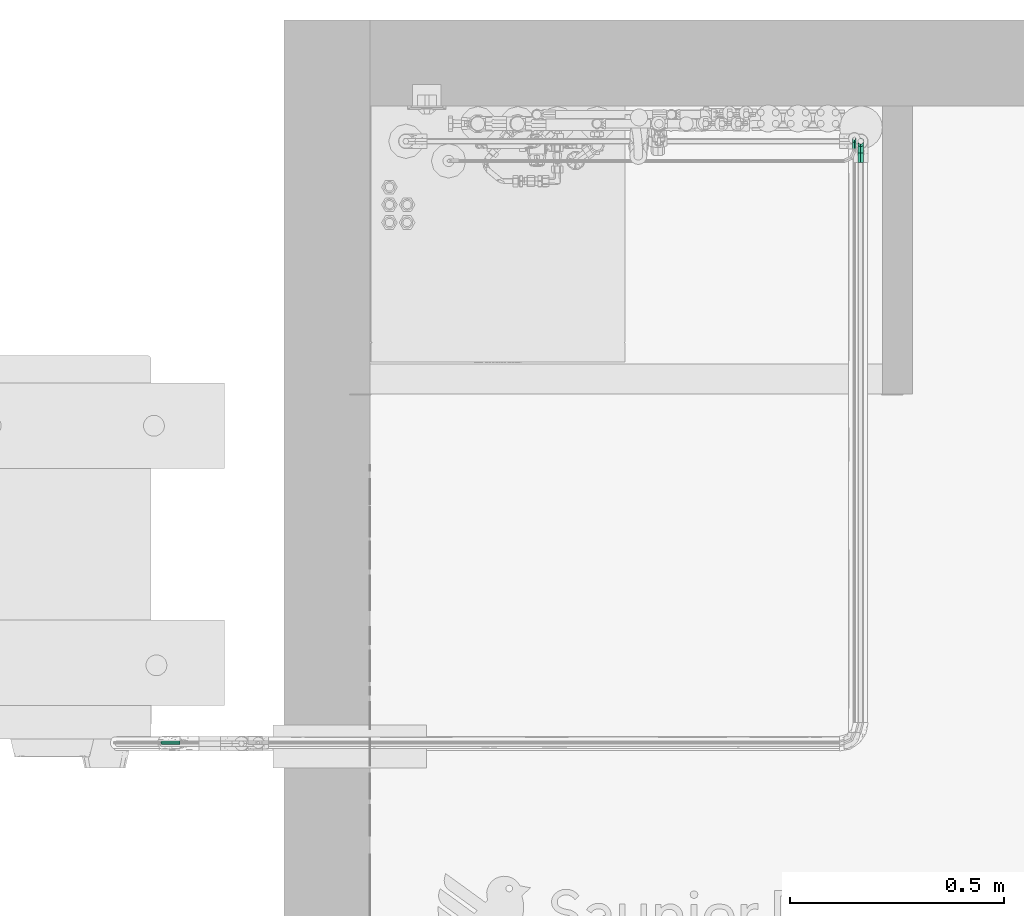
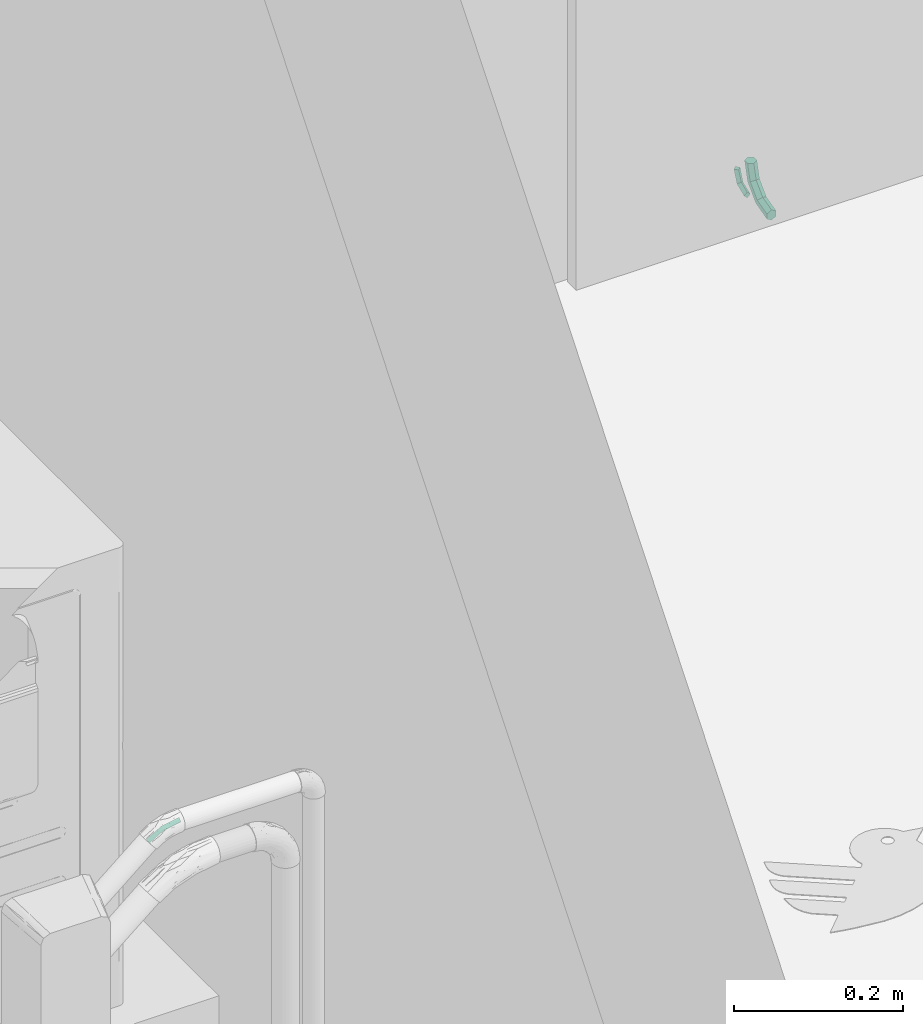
# One storey, part 26 of 32: 3 flow fittings.
"""IFC2X3 building model written with IfcOpenShell, lengths in metres."""

import ifcopenshell
import ifcopenshell.guid

model = None  # the IFC model being written
_history = None  # IfcOwnerHistory: only IFC2X3 demands one
_inside = {}  # id of a spatial element -> (the spatial element, [elements in it])
_under = {}  # id of a project, library or spatial element -> (it, [spatial elements below it])
_declared = {}  # id of a project -> (the project, [libraries it declares])
_typed = {}  # id of a type object -> (the type object, [elements of that type])
_made_of = {}  # id of a material, layer set ... -> (it, [elements and type objects made of it])


def new_model(schema):
    """Start an empty IFC model of exactly this schema.

    Asked for "IFC4X3", IfcOpenShell would pick the latest addendum, in which some entities
    have other attributes; the version numbers below select the first issue.
    IFC2X3 requires an IfcOwnerHistory on every rooted entity: one is made here for all.
    """
    global model, _history
    if schema == "IFC4X3":
        model = ifcopenshell.file(schema_version=(4, 3, 0, 0))
    else:
        model = ifcopenshell.file(schema=schema)
    _inside.clear()
    _under.clear()
    _declared.clear()
    _typed.clear()
    _made_of.clear()
    _history = None
    if model.schema == "IFC2X3":
        org = make("IfcOrganization", Name="unknown")
        user = make(
            "IfcPersonAndOrganization",
            ThePerson=make("IfcPerson", FamilyName="unknown"),
            TheOrganization=org,
        )
        app = make(
            "IfcApplication",
            ApplicationDeveloper=org,
            Version="unknown",
            ApplicationFullName="unknown",
            ApplicationIdentifier="unknown",
        )
        _history = make(
            "IfcOwnerHistory",
            OwningUser=user,
            OwningApplication=app,
            ChangeAction="ADDED",
            CreationDate=0,
        )
    return model


def make(cls, **values):
    """One entity of the class cls with the attributes given. An attribute that is None is left unset."""
    return model.create_entity(
        cls, **{name: value for name, value in values.items() if value is not None}
    )


def entity(cls, *values):
    """Any entity or typed value of the class cls, its attributes in the order of the schema. None: left unset."""
    e = model.create_entity(cls)
    for i, value in enumerate(values):
        if value is not None:
            e[i] = value
    return e


def rooted(cls, **values):
    """An entity with a GlobalId (a new one), such as an element, a storey or a relation."""
    return make(cls, GlobalId=ifcopenshell.guid.new(), OwnerHistory=_history, **values)


def si_unit(unit_type, name, prefix=None):
    """IfcSIUnit, for example si_unit("LENGTHUNIT", "METRE", prefix="MILLI")."""
    return make("IfcSIUnit", UnitType=unit_type, Prefix=prefix, Name=name)


def converted_unit(unit_type, name, factor, base, dimensions=None, offset=None):
    """IfcConversionBasedUnit, such as the inch: factor (a typed value) times the base unit."""
    return make(
        "IfcConversionBasedUnit"
        if offset is None
        else "IfcConversionBasedUnitWithOffset",
        ConversionOffset=offset,
        Dimensions=None
        if dimensions is None
        else entity("IfcDimensionalExponents", *dimensions),
        UnitType=unit_type,
        Name=name,
        ConversionFactor=make(
            "IfcMeasureWithUnit", ValueComponent=factor, UnitComponent=base
        ),
    )


def derived_unit(unit_type, elements):
    """IfcDerivedUnit: a product of units, each with its exponent."""
    return make(
        "IfcDerivedUnit",
        Elements=[
            make("IfcDerivedUnitElement", Unit=unit, Exponent=power)
            for unit, power in elements
        ],
        UnitType=unit_type,
    )


def assignment(units):
    """IfcUnitAssignment: the units of a project."""
    return None if units is None else make("IfcUnitAssignment", Units=units)


def point(xyz):
    """IfcCartesianPoint."""
    return None if xyz is None else make("IfcCartesianPoint", Coordinates=xyz)


def direction(xyz):
    """IfcDirection."""
    return None if xyz is None else make("IfcDirection", DirectionRatios=xyz)


def frame(location, z_axis=None, x_axis=None):
    """IfcAxis2Placement3D, a coordinate frame: its origin and axes. An axis left out is left unset."""
    return make(
        "IfcAxis2Placement3D",
        Location=point(location),
        Axis=direction(z_axis),
        RefDirection=direction(x_axis),
    )


def origin():
    """The frame at (0, 0, 0) with its axes left unset."""
    return frame((0.0, 0.0, 0.0))


def place(relative_to, where):
    """IfcLocalPlacement: puts the frame where relative to a parent placement (None: the world)."""
    return make(
        "IfcLocalPlacement", PlacementRelTo=relative_to, RelativePlacement=where
    )


def context(
    kind, dimensions, precision=None, world=None, true_north=None, identifier=None
):
    """IfcGeometricRepresentationContext, for example the 3D "Model" context."""
    return make(
        "IfcGeometricRepresentationContext",
        ContextIdentifier=identifier,
        ContextType=kind,
        CoordinateSpaceDimension=dimensions,
        Precision=precision,
        WorldCoordinateSystem=world,
        TrueNorth=true_north,
    )


def subcontext(parent, identifier, kind, view, scale=None):
    """IfcGeometricRepresentationSubContext, for example "Body" below "Model"."""
    return make(
        "IfcGeometricRepresentationSubContext",
        ContextIdentifier=identifier,
        ContextType=kind,
        ParentContext=parent,
        TargetScale=scale,
        TargetView=view,
    )


def project(units=None, contexts=None):
    """IfcProject with its units and contexts."""
    return rooted(
        "IfcProject",
        Name="project",
        RepresentationContexts=contexts,
        UnitsInContext=assignment(units),
    )


def spatial(cls, under=None, at=None, **own):
    """A site, building, storey or space (cls), placed at a placement, below another one or the project."""
    s = rooted(cls, ObjectPlacement=at, **own)
    if under is not None:
        _under.setdefault(under.id(), (under, []))[1].append(s)
    return s


def faces_of(points, faces, orient=None, outer=None):
    """IfcFace entities. A face is a list of loops; a loop is a list of indices into points, from 0.

    orient and outer hold one flag for each loop. By default every Orientation is true, the
    first loop of a face is its IfcFaceOuterBound and the others are IfcFaceBound.
    """
    made = []
    for i, loops in enumerate(faces):
        bounds = []
        for j, loop in enumerate(loops):
            is_outer = j == 0 if outer is None else outer[i][j]
            bounds.append(
                make(
                    "IfcFaceOuterBound" if is_outer else "IfcFaceBound",
                    Bound=make("IfcPolyLoop", Polygon=[points[k] for k in loop]),
                    Orientation=True if orient is None else orient[i][j],
                )
            )
        made.append(make("IfcFace", Bounds=bounds))
    return made


def faceted_brep(points, faces, orient=None, outer=None, voids=None):
    """IfcFacetedBrep: a solid bounded by flat faces; with voids (closed shells), ...WithVoids."""
    shared = [point(p) for p in points]
    hull = make("IfcClosedShell", CfsFaces=faces_of(shared, faces, orient, outer))
    if voids is None:
        return make("IfcFacetedBrep", Outer=hull)
    return make(
        "IfcFacetedBrepWithVoids",
        Outer=hull,
        Voids=[
            make(cls, CfsFaces=faces_of(shared, fs, o, b)) for cls, fs, o, b in voids
        ],
    )


def shape(context_of_items, identifier, shape_type, items):
    """IfcShapeRepresentation: the items that make up one representation, for example the "Body"."""
    return make(
        "IfcShapeRepresentation",
        ContextOfItems=context_of_items,
        RepresentationIdentifier=identifier,
        RepresentationType=shape_type,
        Items=items,
    )


def source(mapping_origin, context_of_items, identifier, shape_type, items):
    """IfcRepresentationMap: a shape defined once, which mapped items show again and again."""
    return make(
        "IfcRepresentationMap",
        MappingOrigin=mapping_origin,
        MappedRepresentation=shape(context_of_items, identifier, shape_type, items),
    )


def transform(
    local_origin,
    x_axis=None,
    y_axis=None,
    z_axis=None,
    scale=None,
    scale2=None,
    scale3=None,
    uniform=True,
):
    """IfcCartesianTransformationOperator3D, or its non-uniform kind. x_axis, y_axis, z_axis: its Axis1, 2, 3."""
    if uniform:
        return make(
            "IfcCartesianTransformationOperator3D",
            Axis1=direction(x_axis),
            Axis2=direction(y_axis),
            LocalOrigin=point(local_origin),
            Scale=scale,
            Axis3=direction(z_axis),
        )
    return make(
        "IfcCartesianTransformationOperator3DnonUniform",
        Axis1=direction(x_axis),
        Axis2=direction(y_axis),
        LocalOrigin=point(local_origin),
        Scale=scale,
        Axis3=direction(z_axis),
        Scale2=scale2,
        Scale3=scale3,
    )


def mapped(mapping_source, mapping_target):
    """IfcMappedItem: shows the shape of a source again, moved by a transform."""
    return make(
        "IfcMappedItem", MappingSource=mapping_source, MappingTarget=mapping_target
    )


def material(Name=None, Category=None):
    """IfcMaterial."""
    return make("IfcMaterial", Name=Name, Category=Category)


def made_of(thing, what):
    """Note that an element or type object is made of a material, layer set ...; save() writes the relation."""
    if what is not None:
        _made_of.setdefault(what.id(), (what, []))[1].append(thing)
    return thing


def type_object(cls, material=None, **own):
    """A type object (cls), such as IfcWallType, which elements share."""
    return made_of(rooted(cls, **own), material)


def type_shapes(of_type, sources):
    """Give a type object the sources (RepresentationMaps) that its elements show as mapped items."""
    of_type.RepresentationMaps = sources


def element(
    cls,
    number,
    at=None,
    inside=None,
    cuts=None,
    type_object=None,
    material=None,
    context=None,
    identifier="Body",
    shape_type=None,
    held_by="IfcProductDefinitionShape",
    body=None,
    shapes=None,
    **own,
):
    """One element of the class cls, such as IfcWall. Its Tag is "e" and its number.

    at: its placement. inside: the storey or other place that contains it. cuts: it is an
    opening in that element (IfcRelVoidsElement). A single representation is given by context,
    identifier, shape_type and body (its items); several are given by shapes. held_by: the class
    of the entity that holds the representations. save() writes the other relations.
    """
    e = rooted(cls, Tag="e%d" % number, ObjectPlacement=at, **own)
    if body is not None:
        shapes = [shape(context, identifier, shape_type, body)]
    if shapes is not None:
        e.Representation = make(held_by, Representations=shapes)
    if inside is not None:
        _inside.setdefault(inside.id(), (inside, []))[1].append(e)
    if cuts is not None:
        rooted(
            "IfcRelVoidsElement", RelatingBuildingElement=cuts, RelatedOpeningElement=e
        )
    if type_object is not None:
        _typed.setdefault(type_object.id(), (type_object, []))[1].append(e)
    return made_of(e, material)


def aggregate(whole, parts):
    """IfcRelAggregates: a whole, such as a stair, and the parts it consists of."""
    return rooted("IfcRelAggregates", RelatingObject=whole, RelatedObjects=parts)


def save(model, path):
    """Write the relations noted so far, then the file.

    IfcRelAggregates (storeys below a building ...), IfcRelContainedInSpatialStructure (elements
    in a storey), IfcRelDefinesByType, IfcRelAssociatesMaterial and IfcRelDeclares: one each for
    every whole, place, type object, material and project.
    """
    for whole, parts in _under.values():
        aggregate(whole, parts)
    for where, things in _inside.values():
        rooted(
            "IfcRelContainedInSpatialStructure",
            RelatedElements=things,
            RelatingStructure=where,
        )
    for kind, things in _typed.values():
        rooted("IfcRelDefinesByType", RelatedObjects=things, RelatingType=kind)
    for what, things in _made_of.values():
        rooted("IfcRelAssociatesMaterial", RelatedObjects=things, RelatingMaterial=what)
    for by, libraries in _declared.values():
        rooted("IfcRelDeclares", RelatingContext=by, RelatedDefinitions=libraries)
    model.write(path)


model = new_model("IFC2X3")

# Units and contexts
model_context = context("Model", 3, precision=1e-05, world=origin(), true_north=direction((6.123031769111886e-17, 1.0)))
body_context = subcontext(model_context, "Body", "Model", "MODEL_VIEW")
ifc_project = project(units=[si_unit("LENGTHUNIT", "METRE"), si_unit("AREAUNIT", "SQUARE_METRE"), si_unit("VOLUMEUNIT", "CUBIC_METRE"), converted_unit("PLANEANGLEUNIT", "DEGREE", entity("IfcPlaneAngleMeasure", 0.017453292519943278), si_unit("PLANEANGLEUNIT", "RADIAN"), dimensions=[0, 0, 0, 0, 0, 0, 0]), si_unit("MASSUNIT", "GRAM", prefix="KILO"), derived_unit("MASSDENSITYUNIT", [(si_unit("MASSUNIT", "GRAM", prefix="KILO"), 1), (si_unit("LENGTHUNIT", "METRE"), -3)]), derived_unit("IONCONCENTRATIONUNIT", [(si_unit("MASSUNIT", "GRAM", prefix="KILO"), 1), (si_unit("LENGTHUNIT", "METRE"), -3)]), derived_unit("MOMENTOFINERTIAUNIT", [(si_unit("LENGTHUNIT", "METRE"), 4)]), si_unit("TIMEUNIT", "SECOND"), si_unit("FREQUENCYUNIT", "HERTZ"), si_unit("THERMODYNAMICTEMPERATUREUNIT", "DEGREE_CELSIUS"), derived_unit("THERMALTRANSMITTANCEUNIT", [(si_unit("MASSUNIT", "GRAM", prefix="KILO"), 1), (si_unit("THERMODYNAMICTEMPERATUREUNIT", "KELVIN"), -1), (si_unit("TIMEUNIT", "SECOND"), -3)]), derived_unit("THERMALCONDUCTANCEUNIT", [(si_unit("MASSUNIT", "GRAM", prefix="KILO"), 1), (si_unit("THERMODYNAMICTEMPERATUREUNIT", "KELVIN"), -1), (si_unit("TIMEUNIT", "SECOND"), -3), (si_unit("LENGTHUNIT", "METRE"), 1)]), derived_unit("VOLUMETRICFLOWRATEUNIT", [(si_unit("LENGTHUNIT", "METRE", prefix="DECI"), 3), (si_unit("TIMEUNIT", "SECOND"), -1)]), derived_unit("MASSFLOWRATEUNIT", [(si_unit("MASSUNIT", "GRAM", prefix="KILO"), 1), (si_unit("TIMEUNIT", "SECOND"), -1)]), derived_unit("ROTATIONALFREQUENCYUNIT", [(si_unit("TIMEUNIT", "SECOND"), -1)]), si_unit("ELECTRICCURRENTUNIT", "AMPERE"), si_unit("ELECTRICVOLTAGEUNIT", "VOLT"), si_unit("POWERUNIT", "WATT"), si_unit("FORCEUNIT", "NEWTON", prefix="KILO"), si_unit("ILLUMINANCEUNIT", "LUX"), si_unit("LUMINOUSFLUXUNIT", "LUMEN"), si_unit("LUMINOUSINTENSITYUNIT", "CANDELA"), si_unit("ENERGYUNIT", "JOULE"), derived_unit("USERDEFINED", [(si_unit("MASSUNIT", "GRAM", prefix="KILO"), -1), (si_unit("LENGTHUNIT", "METRE"), -2), (si_unit("TIMEUNIT", "SECOND"), 3), (si_unit("LUMINOUSFLUXUNIT", "LUMEN"), 1)]), derived_unit("USERDEFINED", [(si_unit("MASSUNIT", "GRAM", prefix="KILO"), 1), (si_unit("TIMEUNIT", "SECOND"), -3), (si_unit("LENGTHUNIT", "METRE"), 3), (si_unit("ELECTRICCURRENTUNIT", "AMPERE"), -2)]), derived_unit("SOUNDPOWERUNIT", [(si_unit("MASSUNIT", "GRAM", prefix="KILO"), 1), (si_unit("TIMEUNIT", "SECOND"), -3), (si_unit("LENGTHUNIT", "METRE"), 2)]), derived_unit("SOUNDPRESSUREUNIT", [(si_unit("MASSUNIT", "GRAM", prefix="KILO"), 1), (si_unit("LENGTHUNIT", "METRE"), -1), (si_unit("TIMEUNIT", "SECOND"), -2)]), derived_unit("LINEARVELOCITYUNIT", [(si_unit("LENGTHUNIT", "METRE"), 1), (si_unit("TIMEUNIT", "SECOND"), -1)]), si_unit("PRESSUREUNIT", "PASCAL"), derived_unit("USERDEFINED", [(si_unit("MASSUNIT", "GRAM", prefix="KILO"), 1), (si_unit("LENGTHUNIT", "METRE"), -2), (si_unit("TIMEUNIT", "SECOND"), -2)]), derived_unit("LINEARFORCEUNIT", [(si_unit("MASSUNIT", "GRAM", prefix="KILO"), 1), (si_unit("TIMEUNIT", "SECOND"), -2)]), derived_unit("PLANARFORCEUNIT", [(si_unit("MASSUNIT", "GRAM", prefix="KILO"), 1), (si_unit("LENGTHUNIT", "METRE"), -1), (si_unit("TIMEUNIT", "SECOND"), -2)]), derived_unit("SPECIFICHEATCAPACITYUNIT", [(si_unit("THERMODYNAMICTEMPERATUREUNIT", "KELVIN"), -1), (si_unit("LENGTHUNIT", "METRE"), 2), (si_unit("TIMEUNIT", "SECOND"), -2)]), derived_unit("HEATFLUXDENSITYUNIT", [(si_unit("MASSUNIT", "GRAM", prefix="KILO"), 1), (si_unit("TIMEUNIT", "SECOND"), -3)]), derived_unit("HEATINGVALUEUNIT", [(si_unit("LENGTHUNIT", "METRE"), 2), (si_unit("TIMEUNIT", "SECOND"), -2)]), derived_unit("VAPORPERMEABILITYUNIT", [(si_unit("LENGTHUNIT", "METRE"), -1), (si_unit("TIMEUNIT", "SECOND"), 1)]), derived_unit("DYNAMICVISCOSITYUNIT", [(si_unit("MASSUNIT", "GRAM", prefix="KILO"), 1), (si_unit("TIMEUNIT", "SECOND"), -1), (si_unit("LENGTHUNIT", "METRE"), -1)]), derived_unit("THERMALEXPANSIONCOEFFICIENTUNIT", [(si_unit("THERMODYNAMICTEMPERATUREUNIT", "KELVIN"), -1)]), derived_unit("MODULUSOFELASTICITYUNIT", [(si_unit("MASSUNIT", "GRAM", prefix="KILO"), 1), (si_unit("LENGTHUNIT", "METRE"), -1), (si_unit("TIMEUNIT", "SECOND"), -2)]), derived_unit("ISOTHERMALMOISTURECAPACITYUNIT", [(si_unit("MASSUNIT", "GRAM", prefix="KILO"), -1), (si_unit("LENGTHUNIT", "METRE"), 3)]), derived_unit("MOISTUREDIFFUSIVITYUNIT", [(si_unit("TIMEUNIT", "SECOND"), -1), (si_unit("LENGTHUNIT", "METRE"), 2)]), derived_unit("MASSPERLENGTHUNIT", [(si_unit("MASSUNIT", "GRAM", prefix="KILO"), 1), (si_unit("LENGTHUNIT", "METRE"), -1)]), derived_unit("THERMALRESISTANCEUNIT", [(si_unit("MASSUNIT", "GRAM", prefix="KILO"), -1), (si_unit("TIMEUNIT", "SECOND"), 3), (si_unit("THERMODYNAMICTEMPERATUREUNIT", "KELVIN"), 1)]), derived_unit("ACCELERATIONUNIT", [(si_unit("LENGTHUNIT", "METRE"), 1), (si_unit("TIMEUNIT", "SECOND"), -2)]), derived_unit("ANGULARVELOCITYUNIT", [(si_unit("TIMEUNIT", "SECOND"), -1), (si_unit("PLANEANGLEUNIT", "RADIAN"), 1)]), derived_unit("LINEARSTIFFNESSUNIT", [(si_unit("MASSUNIT", "GRAM", prefix="KILO"), 1), (si_unit("TIMEUNIT", "SECOND"), -2)]), derived_unit("WARPINGCONSTANTUNIT", [(si_unit("LENGTHUNIT", "METRE"), 6)]), derived_unit("LINEARMOMENTUNIT", [(si_unit("MASSUNIT", "GRAM", prefix="KILO"), 1), (si_unit("LENGTHUNIT", "METRE"), 1), (si_unit("TIMEUNIT", "SECOND"), -2)]), derived_unit("TORQUEUNIT", [(si_unit("MASSUNIT", "GRAM", prefix="KILO"), 1), (si_unit("LENGTHUNIT", "METRE"), 2), (si_unit("TIMEUNIT", "SECOND"), -2)])], contexts=[model_context])

# Site, building, storey
site_placement = place(None, origin())
site = spatial("IfcSite", under=ifc_project, at=site_placement, Name="Default", CompositionType="ELEMENT")
building_placement = place(site_placement, origin())
building = spatial("IfcBuilding", under=site, at=building_placement, CompositionType="ELEMENT")
storey_placement = place(building_placement, origin())
storey = spatial("IfcBuildingStorey", under=building, at=storey_placement, Name="Niveau 0", CompositionType="ELEMENT", Elevation=-1.949160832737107e-14)

# Flow fittings
ifc_material = material(Name="Cuivre")
pipe_fitting_type_1 = type_object("IfcPipeFittingType", Name="Coude - tube frigo:Standard", PredefinedType="NOTDEFINED", material=ifc_material)
shared_shape_1 = source(origin(), body_context, "Body", "Brep", [
    faceted_brep([(-1.6923237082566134e-05, 4.6496211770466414e-05, 0.0), (-0.001453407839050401, 0.0039932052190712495, -0.004200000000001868), (0.01846167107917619, 0.015491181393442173, -0.004200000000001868), (0.02116137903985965, 0.012273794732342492, 0.0), (-0.0028898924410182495, 0.00793991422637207, 0.0), (0.0157619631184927, 0.018708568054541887, 0.0), (-0.0014534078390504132, 0.003993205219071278, 0.004199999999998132), (0.018461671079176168, 0.015491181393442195, 0.004199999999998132), (-0.0240999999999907, -0.004200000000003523, 0.0), (-0.024099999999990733, 0.0, -0.004200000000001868), (-0.024099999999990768, 0.0041999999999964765, 0.0), (-0.024099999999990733, 0.0, 0.004199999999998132)], [[[0, 1, 2, 3]], [[1, 4, 5, 2]], [[4, 6, 7, 5]], [[6, 0, 3, 7]], [[8, 9, 1, 0]], [[9, 10, 4, 1]], [[10, 11, 6, 4]], [[11, 8, 0, 6]], [[3, 2, 5, 7]], [[11, 10, 9, 8]]]),
])
type_shapes(pipe_fitting_type_1, [shared_shape_1])
flow_fitting_1_placement = place(storey_placement, frame((-15.178569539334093, 1.3770530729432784, 0.09334358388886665), z_axis=(0.0, 1.0, 0.0), x_axis=(0.7660444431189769, 0.0, 0.6427876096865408)))
element("IfcFlowFitting", 1, at=flow_fitting_1_placement, inside=storey, type_object=pipe_fitting_type_1, material=ifc_material, Name="Coude - tube frigo:Standard", ObjectType="Coude - tube frigo:Standard", context=body_context, shape_type="MappedRepresentation", body=[
    mapped(shared_shape_1, transform((0.0, 0.0, 0.0), scale=1.0)),
])
pipe_fitting_type_2 = type_object("IfcPipeFittingType", Name="Coude - tube frigo:Standard", PredefinedType="NOTDEFINED", material=ifc_material)
shared_shape_2 = source(origin(), body_context, "Body", "Brep", [
    faceted_brep([(-0.00023966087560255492, 0.02097499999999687, 0.0), (-0.003422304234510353, 0.022812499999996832, -0.006365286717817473), (0.003675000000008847, 0.049299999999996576, -0.006365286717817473), (0.0073500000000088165, 0.049299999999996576, 0.0), (-0.009787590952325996, 0.02648749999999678, -0.006365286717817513), (-0.003674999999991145, 0.049299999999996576, -0.006365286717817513), (-0.012970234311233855, 0.028324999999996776, 0.0), (-0.007349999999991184, 0.049299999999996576, 0.0), (-0.00978759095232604, 0.02648749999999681, 0.00636528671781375), (-0.003674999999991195, 0.049299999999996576, 0.00636528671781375), (-0.003422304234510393, 0.022812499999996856, 0.0063652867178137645), (0.0036750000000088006, 0.049299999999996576, 0.0063652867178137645), (-0.020974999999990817, 0.00023966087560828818, 0.0), (-0.022812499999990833, 0.003422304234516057, -0.006365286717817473), (-0.02648749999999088, 0.009787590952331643, -0.006365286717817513), (-0.028324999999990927, 0.012970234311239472, 0.0), (-0.026487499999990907, 0.009787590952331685, 0.00636528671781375), (-0.022812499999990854, 0.003422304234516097, 0.0063652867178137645), (-0.04929999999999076, -0.007350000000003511, 0.0), (-0.049299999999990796, -0.0036750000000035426, -0.006365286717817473), (-0.049299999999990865, 0.0036749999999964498, -0.006365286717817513), (-0.0492999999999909, 0.007349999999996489, 0.0), (-0.049299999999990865, 0.0036749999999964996, 0.00636528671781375), (-0.049299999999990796, -0.0036750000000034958, 0.0063652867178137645)], [[[0, 1, 2, 3]], [[1, 4, 5, 2]], [[4, 6, 7, 5]], [[6, 8, 9, 7]], [[8, 10, 11, 9]], [[10, 0, 3, 11]], [[12, 13, 1, 0]], [[13, 14, 4, 1]], [[14, 15, 6, 4]], [[15, 16, 8, 6]], [[16, 17, 10, 8]], [[17, 12, 0, 10]], [[18, 19, 13, 12]], [[19, 20, 14, 13]], [[20, 21, 15, 14]], [[21, 22, 16, 15]], [[22, 23, 17, 16]], [[23, 18, 12, 17]], [[3, 2, 5, 7, 9, 11]], [[23, 22, 21, 20, 19, 18]]]),
])
type_shapes(pipe_fitting_type_2, [shared_shape_2])
flow_fitting_2_placement = place(storey_placement, frame((-13.56030147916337, 2.785526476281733, -0.41499999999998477), z_axis=(-1.0, 0.0, 0.0), x_axis=(0.0, 0.0, -1.0)))
element("IfcFlowFitting", 2, at=flow_fitting_2_placement, inside=storey, type_object=pipe_fitting_type_2, material=ifc_material, Name="Coude - tube frigo:Standard", ObjectType="Coude - tube frigo:Standard", context=body_context, shape_type="MappedRepresentation", body=[
    mapped(shared_shape_2, transform((0.0, 0.0, 0.0), scale=1.0)),
])
pipe_fitting_type_3 = type_object("IfcPipeFittingType", Name="Coude - tube frigo:Standard", PredefinedType="NOTDEFINED", material=ifc_material)
shared_shape_3 = source(origin(), body_context, "Body", "Brep", [
    faceted_brep([(-0.004088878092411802, 0.004088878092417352, 0.0), (-0.007058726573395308, 0.007058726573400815, -0.004200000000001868), (0.0, 0.024099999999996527, -0.004200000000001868), (0.0042000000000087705, 0.024099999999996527, 0.0), (-0.010028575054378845, 0.010028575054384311, 0.0), (-0.00419999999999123, 0.024099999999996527, 0.0), (-0.00705872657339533, 0.007058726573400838, 0.004199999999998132), (0.0, 0.024099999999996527, 0.004199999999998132), (-0.024099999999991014, -0.004200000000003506, 0.0), (-0.024099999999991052, 0.0, -0.004200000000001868), (-0.02409999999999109, 0.0041999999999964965, 0.0), (-0.024099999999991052, 0.0, 0.004199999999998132)], [[[0, 1, 2, 3]], [[1, 4, 5, 2]], [[4, 6, 7, 5]], [[6, 0, 3, 7]], [[8, 9, 1, 0]], [[9, 10, 4, 1]], [[10, 11, 6, 4]], [[11, 8, 0, 6]], [[3, 2, 5, 7]], [[11, 10, 9, 8]]]),
])
type_shapes(pipe_fitting_type_3, [shared_shape_3])
flow_fitting_3_placement = place(storey_placement, frame((-13.575301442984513, 2.7920264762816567, -0.3999999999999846), z_axis=(-1.0, 0.0, 0.0), x_axis=(0.0, 0.0, -1.0)))
element("IfcFlowFitting", 3, at=flow_fitting_3_placement, inside=storey, type_object=pipe_fitting_type_3, material=ifc_material, Name="Coude - tube frigo:Standard", ObjectType="Coude - tube frigo:Standard", context=body_context, shape_type="MappedRepresentation", body=[
    mapped(shared_shape_3, transform((0.0, 0.0, 0.0), scale=1.0)),
])

save(model, "model.ifc")
